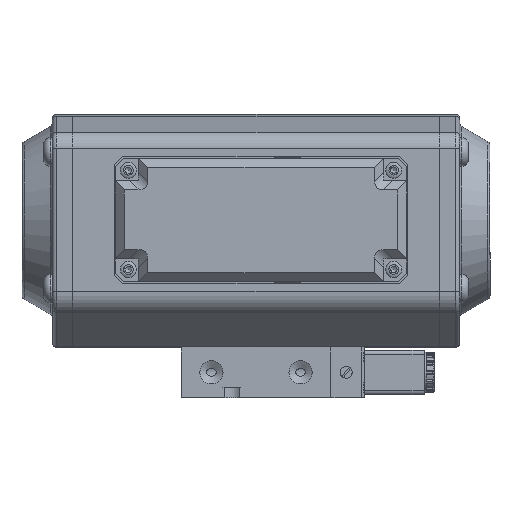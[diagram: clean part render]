
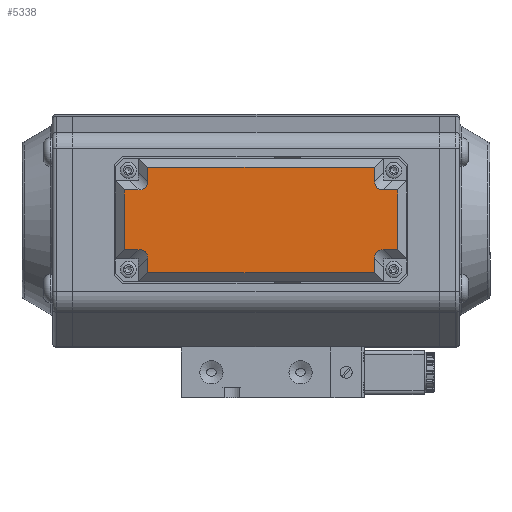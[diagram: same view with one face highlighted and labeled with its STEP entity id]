
A CAD part, top view. The second image highlights one B-rep face of the part: STEP entity #5338.
In plain terms, the highlighted planar face has unit normal (0, 0, 1) as drawn and (0, 1, 0) by its records, which use the part's own axes.
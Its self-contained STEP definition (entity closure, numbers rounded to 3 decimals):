
#5338 = ADVANCED_FACE( '', ( #11042 ), #11043, .T. );
#11042 = FACE_OUTER_BOUND( '', #26628, .T. );
#11043 = PLANE( '', #26629 );
#26628 = EDGE_LOOP( '', ( #44426, #44427, #44428, #44429, #44430, #44431, #44432, #44433, #44434, #44435, #44436, #44437, #44438, #44439, #44440, #44441 ) );
#26629 = AXIS2_PLACEMENT_3D( '', #44442, #44443, #44444 );
#44426 = ORIENTED_EDGE( '', *, *, #55346, .F. );
#44427 = ORIENTED_EDGE( '', *, *, #49883, .F. );
#44428 = ORIENTED_EDGE( '', *, *, #54943, .F. );
#44429 = ORIENTED_EDGE( '', *, *, #53668, .F. );
#44430 = ORIENTED_EDGE( '', *, *, #54273, .F. );
#44431 = ORIENTED_EDGE( '', *, *, #50444, .F. );
#44432 = ORIENTED_EDGE( '', *, *, #55347, .F. );
#44433 = ORIENTED_EDGE( '', *, *, #54620, .F. );
#44434 = ORIENTED_EDGE( '', *, *, #51617, .F. );
#44435 = ORIENTED_EDGE( '', *, *, #51505, .F. );
#44436 = ORIENTED_EDGE( '', *, *, #54561, .F. );
#44437 = ORIENTED_EDGE( '', *, *, #52630, .F. );
#44438 = ORIENTED_EDGE( '', *, *, #53324, .F. );
#44439 = ORIENTED_EDGE( '', *, *, #54021, .F. );
#44440 = ORIENTED_EDGE( '', *, *, #55348, .F. );
#44441 = ORIENTED_EDGE( '', *, *, #55349, .F. );
#44442 = CARTESIAN_POINT( '', ( -75., 55., 0. ) );
#44443 = DIRECTION( '', ( 0., 1., 0. ) );
#44444 = DIRECTION( '', ( 1., 0., 0. ) );
#49883 = EDGE_CURVE( '', #56502, #56503, #56504, .T. );
#50444 = EDGE_CURVE( '', #57494, #57496, #57497, .T. );
#51505 = EDGE_CURVE( '', #59297, #59299, #59300, .T. );
#51617 = EDGE_CURVE( '', #59299, #59484, #59487, .T. );
#52630 = EDGE_CURVE( '', #61109, #61111, #61112, .T. );
#53324 = EDGE_CURVE( '', #62146, #61109, #62148, .T. );
#53668 = EDGE_CURVE( '', #62633, #62635, #62636, .T. );
#54021 = EDGE_CURVE( '', #63149, #62146, #63150, .T. );
#54273 = EDGE_CURVE( '', #57496, #62633, #63482, .T. );
#54561 = EDGE_CURVE( '', #61111, #59297, #63878, .T. );
#54620 = EDGE_CURVE( '', #59484, #63950, #63951, .T. );
#54943 = EDGE_CURVE( '', #62635, #56502, #64360, .T. );
#55346 = EDGE_CURVE( '', #56503, #64845, #64846, .T. );
#55347 = EDGE_CURVE( '', #63950, #57494, #64847, .T. );
#55348 = EDGE_CURVE( '', #64848, #63149, #64849, .T. );
#55349 = EDGE_CURVE( '', #64845, #64848, #64850, .T. );
#56502 = VERTEX_POINT( '', #66279 );
#56503 = VERTEX_POINT( '', #66280 );
#56504 = LINE( '', #66281, #66282 );
#57494 = VERTEX_POINT( '', #68509 );
#57496 = VERTEX_POINT( '', #68512 );
#57497 = LINE( '', #68513, #68514 );
#59297 = VERTEX_POINT( '', #72742 );
#59299 = VERTEX_POINT( '', #72745 );
#59300 = LINE( '', #72746, #72747 );
#59484 = VERTEX_POINT( '', #73137 );
#59487 = LINE( '', #73142, #73143 );
#61109 = VERTEX_POINT( '', #77145 );
#61111 = VERTEX_POINT( '', #77148 );
#61112 = ELLIPSE( '', #77149, 10.392, 6. );
#62146 = VERTEX_POINT( '', #79948 );
#62148 = LINE( '', #79951, #79952 );
#62633 = VERTEX_POINT( '', #81223 );
#62635 = VERTEX_POINT( '', #81226 );
#62636 = ELLIPSE( '', #81227, 10.392, 6. );
#63149 = VERTEX_POINT( '', #82994 );
#63150 = LINE( '', #82995, #82996 );
#63482 = LINE( '', #83856, #83857 );
#63878 = LINE( '', #84844, #84845 );
#63950 = VERTEX_POINT( '', #85043 );
#63951 = ELLIPSE( '', #85044, 10.392, 6. );
#64360 = LINE( '', #86094, #86095 );
#64845 = VERTEX_POINT( '', #87326 );
#64846 = LINE( '', #87327, #87328 );
#64847 = LINE( '', #87329, #87330 );
#64848 = VERTEX_POINT( '', #87331 );
#64849 = LINE( '', #87332, #87333 );
#64850 = ELLIPSE( '', #87334, 10.392, 6. );
#66279 = CARTESIAN_POINT( '', ( -59., 55., 4.5 ) );
#66280 = CARTESIAN_POINT( '', ( 53., 55., 4.5 ) );
#66281 = CARTESIAN_POINT( '', ( -59., 55., 4.5 ) );
#66282 = VECTOR( '', #89317, 1000. );
#68509 = CARTESIAN_POINT( '', ( -70.5, 55., 45.25 ) );
#68512 = CARTESIAN_POINT( '', ( -70.5, 55., 15.75 ) );
#68513 = CARTESIAN_POINT( '', ( -70.5, 55., 45.25 ) );
#68514 = VECTOR( '', #89809, 1000. );
#72742 = CARTESIAN_POINT( '', ( 53., 55., 56.5 ) );
#72745 = CARTESIAN_POINT( '', ( -59., 55., 56.5 ) );
#72746 = CARTESIAN_POINT( '', ( 53., 55., 56.5 ) );
#72747 = VECTOR( '', #90732, 1000. );
#73137 = CARTESIAN_POINT( '', ( -59., 55., 49.493 ) );
#73142 = CARTESIAN_POINT( '', ( -59., 55., 56.5 ) );
#73143 = VECTOR( '', #90810, 1000. );
#77145 = CARTESIAN_POINT( '', ( 57.243, 55., 45.25 ) );
#77148 = CARTESIAN_POINT( '', ( 53., 55., 49.493 ) );
#77149 = AXIS2_PLACEMENT_3D( '', #91653, #91654, #91655 );
#79948 = CARTESIAN_POINT( '', ( 64.5, 55., 45.25 ) );
#79951 = CARTESIAN_POINT( '', ( 64.5, 55., 45.25 ) );
#79952 = VECTOR( '', #92226, 1000. );
#81223 = CARTESIAN_POINT( '', ( -63.243, 55., 15.75 ) );
#81226 = CARTESIAN_POINT( '', ( -59., 55., 11.507 ) );
#81227 = AXIS2_PLACEMENT_3D( '', #92437, #92438, #92439 );
#82994 = CARTESIAN_POINT( '', ( 64.5, 55., 15.75 ) );
#82995 = CARTESIAN_POINT( '', ( 64.5, 55., 15.75 ) );
#82996 = VECTOR( '', #92685, 1000. );
#83856 = CARTESIAN_POINT( '', ( -70.5, 55., 15.75 ) );
#83857 = VECTOR( '', #92856, 1000. );
#84844 = CARTESIAN_POINT( '', ( 53., 55., 49.493 ) );
#84845 = VECTOR( '', #93097, 1000. );
#85043 = CARTESIAN_POINT( '', ( -63.243, 55., 45.25 ) );
#85044 = AXIS2_PLACEMENT_3D( '', #93138, #93139, #93140 );
#86094 = CARTESIAN_POINT( '', ( -59., 55., 11.507 ) );
#86095 = VECTOR( '', #93369, 1000. );
#87326 = CARTESIAN_POINT( '', ( 53., 55., 11.507 ) );
#87327 = CARTESIAN_POINT( '', ( 53., 55., 4.5 ) );
#87328 = VECTOR( '', #93640, 1000. );
#87329 = CARTESIAN_POINT( '', ( -63.243, 55., 45.25 ) );
#87330 = VECTOR( '', #93641, 1000. );
#87331 = CARTESIAN_POINT( '', ( 57.243, 55., 15.75 ) );
#87332 = CARTESIAN_POINT( '', ( 57.243, 55., 15.75 ) );
#87333 = VECTOR( '', #93642, 1000. );
#87334 = AXIS2_PLACEMENT_3D( '', #93643, #93644, #93645 );
#89317 = DIRECTION( '', ( 1., 0., 0. ) );
#89809 = DIRECTION( '', ( 0., 0., -1. ) );
#90732 = DIRECTION( '', ( -1., 0., 0. ) );
#90810 = DIRECTION( '', ( 0., 0., -1. ) );
#91653 = CARTESIAN_POINT( '', ( 61.485, 55., 53.735 ) );
#91654 = DIRECTION( '', ( 0., 1., 0. ) );
#91655 = DIRECTION( '', ( -0.707, 0., -0.707 ) );
#92226 = DIRECTION( '', ( -1., 0., 0. ) );
#92437 = CARTESIAN_POINT( '', ( -67.485, 55., 7.265 ) );
#92438 = DIRECTION( '', ( 0., 1., 0. ) );
#92439 = DIRECTION( '', ( 0.707, 0., 0.707 ) );
#92685 = DIRECTION( '', ( 0., 0., 1. ) );
#92856 = DIRECTION( '', ( 1., 0., 0. ) );
#93097 = DIRECTION( '', ( 0., 0., 1. ) );
#93138 = CARTESIAN_POINT( '', ( -67.485, 55., 53.735 ) );
#93139 = DIRECTION( '', ( 0., 1., 0. ) );
#93140 = DIRECTION( '', ( 0.707, 0., -0.707 ) );
#93369 = DIRECTION( '', ( 0., 0., -1. ) );
#93640 = DIRECTION( '', ( 0., 0., 1. ) );
#93641 = DIRECTION( '', ( -1., 0., 0. ) );
#93642 = DIRECTION( '', ( 1., 0., 0. ) );
#93643 = CARTESIAN_POINT( '', ( 61.485, 55., 7.265 ) );
#93644 = DIRECTION( '', ( 0., 1., 0. ) );
#93645 = DIRECTION( '', ( -0.707, 0., 0.707 ) );
